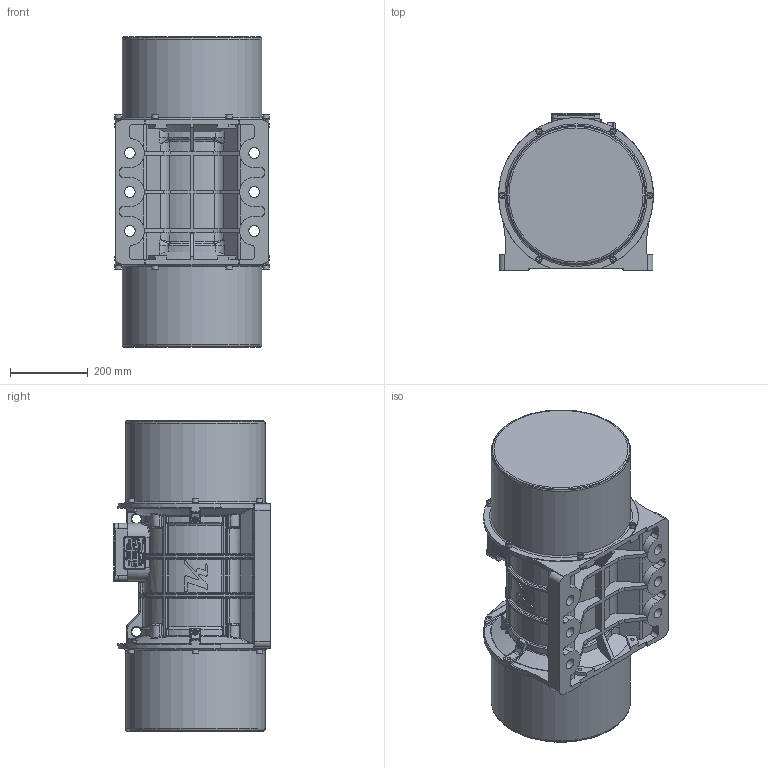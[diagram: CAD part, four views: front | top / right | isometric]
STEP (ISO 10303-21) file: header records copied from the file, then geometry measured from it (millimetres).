
FILE_DESCRIPTION(/* description */ (''),/* implementation_level */ '2;1');
FILE_NAME(/* name */ '9 NO B1 TAS.stp',/* time_stamp */ '2026-09-07T09:31:21+03:00',/* author */ ('PC'),/* organization */ (''),/* preprocessor_version */ 'ST-DEVELOPER v20.1',/* originating_system */ 'Autodesk Inventor 2026',/* authorisation */ '');
FILE_SCHEMA (('AUTOMOTIVE_DESIGN { 1 0 10303 214 3 1 1 }'));
Products named in the file (1): 9 NO B1 TAS
Bounding box: 397.94 x 403 x 799 mm (x, y, z)
Volume: 71568900.1 mm3; surface area: 1620106.2 mm2
Topology: 1 solids, 25 shells, 4571 faces, 11842 edges, 7484 vertices
Faces by surface type: plane 2128, bspline 1291, cylinder 614, torus 311, cone 129, sphere 98
Full cylindrical faces by diameter (mm): 4 x4, 6.647 x2, 6.917 x4, 8 x2, 8.376 x12, 8.5 x2, 10 x12, 10.5 x12, 11 x12, 13 x4, 16 x16, 18.5 x1, 18.6 x1, 21.3 x1, 22.5 x1, 24 x2, 28 x7, 32.2 x1, 64 x6, 358.5 x2
Entity records: 185421 total; most frequent: CARTESIAN_POINT 80161, ORIENTED_EDGE 23346, DIRECTION 17821, EDGE_CURVE 11673, VERTEX_POINT 7484, LINE 6581, VECTOR 6581, AXIS2_PLACEMENT_3D 5620
